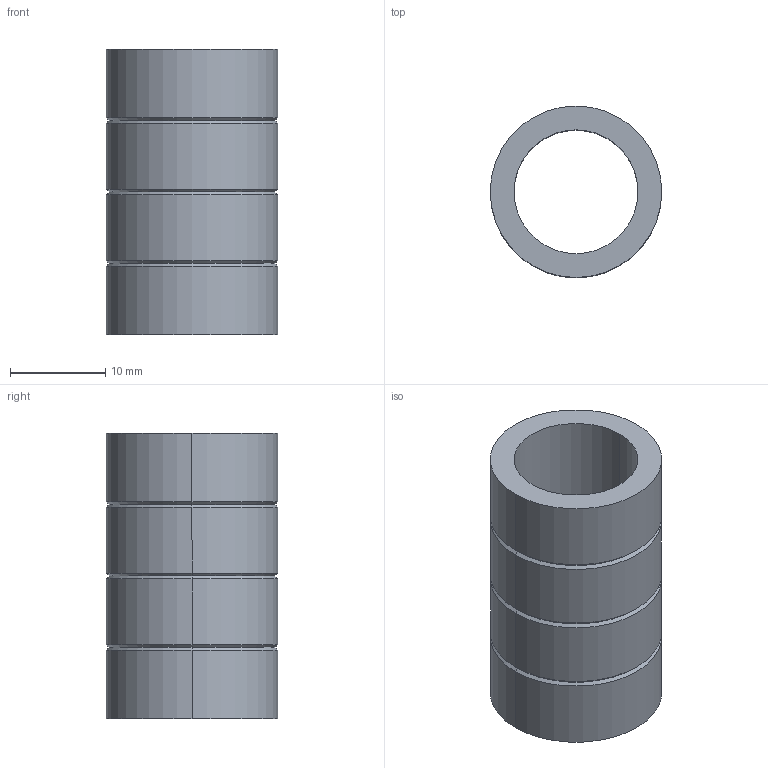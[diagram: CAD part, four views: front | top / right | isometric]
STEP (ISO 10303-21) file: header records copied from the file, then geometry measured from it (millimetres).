
FILE_DESCRIPTION(/* description */ (''),/* implementation_level */ '2;1');
FILE_NAME(/* name */ '3d_sgbl13-30_00005_r00.stp',/* time_stamp */ '2011-01-10T14:11:13+09:00',/* author */ ('MISUMI'),/* organization */ (''),/* preprocessor_version */ 'ST-DEVELOPER v11',/* originating_system */ 'UGS - NX 5.0',/* authorisation */ '');
FILE_SCHEMA (('CONFIG_CONTROL_DESIGN'));
Length unit declared in the file: millimetre
Products named in the file (1): 3d_sgbl13-30_00005_r00
Bounding box: 18 x 18 x 30 mm (x, y, z)
Volume: 3637 mm3; surface area: 3204.9 mm2
Topology: 1 solids, 1 shells, 24 faces, 48 edges, 26 vertices
Faces by surface type: cone 12, cylinder 10, plane 2
Entity records: 704 total; most frequent: DIRECTION 124, CARTESIAN_POINT 99, ORIENTED_EDGE 96, AXIS2_PLACEMENT_3D 51, EDGE_CURVE 48, EDGE_LOOP 26, VERTEX_POINT 26, CIRCLE 26
